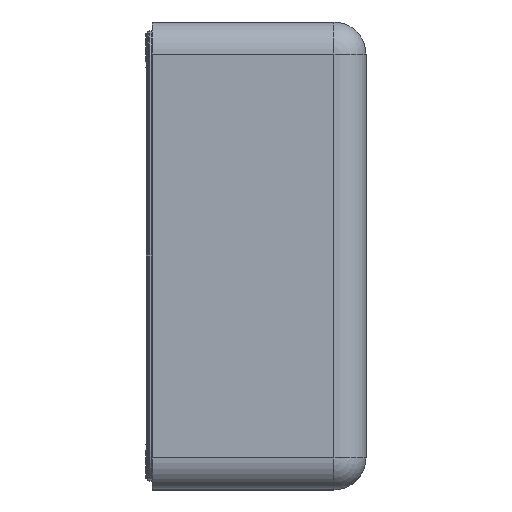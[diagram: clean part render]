
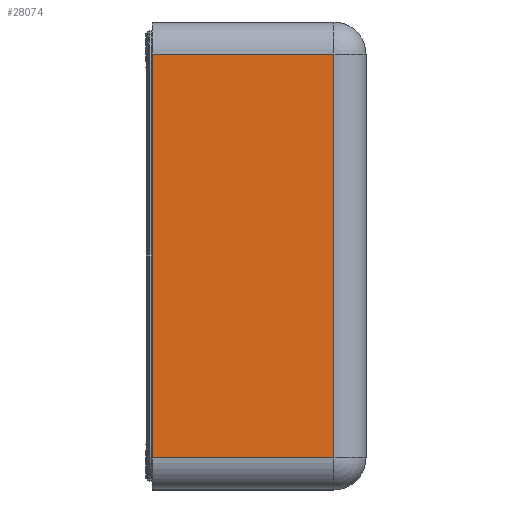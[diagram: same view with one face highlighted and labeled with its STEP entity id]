
A CAD part, left-side view. The second image highlights one B-rep face of the part: STEP entity #28074.
In plain terms, the highlighted planar face has unit normal (-1, 0, 0).
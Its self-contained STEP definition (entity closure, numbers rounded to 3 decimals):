
#4814 = EDGE_CURVE ( 'NONE', #31796, #118474, #88592, .T. ) ;
#10667 = VECTOR ( 'NONE', #22740, 39.37 ) ;
#11954 = VECTOR ( 'NONE', #153728, 39.37 ) ;
#19106 = CARTESIAN_POINT ( 'NONE',  ( -28.75, -6.8, -7.55 ) ) ;
#21804 = ORIENTED_EDGE ( 'NONE', *, *, #109555, .T. ) ;
#22740 = DIRECTION ( 'NONE',  ( 0., 1., 0. ) ) ;
#28074 = ADVANCED_FACE ( 'NONE', ( #90408 ), #119254, .T. ) ;
#31796 = VERTEX_POINT ( 'NONE', #19106 ) ;
#35397 = CARTESIAN_POINT ( 'NONE',  ( -28.75, -8., -7.55 ) ) ;
#35654 = ORIENTED_EDGE ( 'NONE', *, *, #116693, .T. ) ;
#36319 = CARTESIAN_POINT ( 'NONE',  ( -28.75, -8., 7.55 ) ) ;
#50769 = DIRECTION ( 'NONE',  ( -1., 0., 0. ) ) ;
#56419 = LINE ( 'NONE', #139326, #11954 ) ;
#58713 = CARTESIAN_POINT ( 'NONE',  ( -28.75, 0., 7.55 ) ) ;
#60763 = VECTOR ( 'NONE', #133221, 39.37 ) ;
#64133 = VERTEX_POINT ( 'NONE', #58713 ) ;
#68316 = LINE ( 'NONE', #111531, #171054 ) ;
#76882 = DIRECTION ( 'NONE',  ( 0., 0., 1. ) ) ;
#78236 = CARTESIAN_POINT ( 'NONE',  ( -28.75, 0., 7.55 ) ) ;
#85379 = VERTEX_POINT ( 'NONE', #98331 ) ;
#85615 = CARTESIAN_POINT ( 'NONE',  ( -28.75, 0., -7.55 ) ) ;
#88592 = LINE ( 'NONE', #35397, #10667 ) ;
#90408 = FACE_OUTER_BOUND ( 'NONE', #127849, .T. ) ;
#91752 = LINE ( 'NONE', #78236, #60763 ) ;
#97696 = AXIS2_PLACEMENT_3D ( 'NONE', #36319, #50769, #76882 ) ;
#98331 = CARTESIAN_POINT ( 'NONE',  ( -28.75, -6.8, 7.55 ) ) ;
#109555 = EDGE_CURVE ( 'NONE', #31796, #85379, #56419, .T. ) ;
#110113 = ORIENTED_EDGE ( 'NONE', *, *, #164312, .T. ) ;
#111531 = CARTESIAN_POINT ( 'NONE',  ( -28.75, -8., 7.55 ) ) ;
#116693 = EDGE_CURVE ( 'NONE', #85379, #64133, #68316, .T. ) ;
#118474 = VERTEX_POINT ( 'NONE', #85615 ) ;
#119254 = PLANE ( 'NONE',  #97696 ) ;
#127849 = EDGE_LOOP ( 'NONE', ( #35654, #110113, #130549, #21804 ) ) ;
#130549 = ORIENTED_EDGE ( 'NONE', *, *, #4814, .F. ) ;
#133221 = DIRECTION ( 'NONE',  ( 0., 0., -1. ) ) ;
#139326 = CARTESIAN_POINT ( 'NONE',  ( -28.75, -6.8, 7.55 ) ) ;
#153728 = DIRECTION ( 'NONE',  ( 0., 0., 1. ) ) ;
#164312 = EDGE_CURVE ( 'NONE', #64133, #118474, #91752, .T. ) ;
#171054 = VECTOR ( 'NONE', #178245, 39.37 ) ;
#178245 = DIRECTION ( 'NONE',  ( 0., 1., 0. ) ) ;
